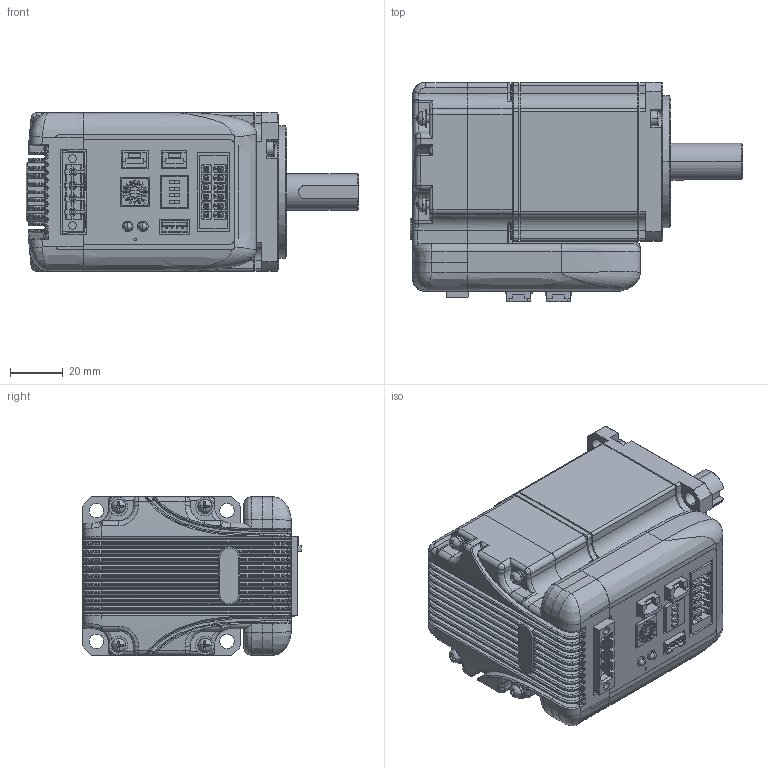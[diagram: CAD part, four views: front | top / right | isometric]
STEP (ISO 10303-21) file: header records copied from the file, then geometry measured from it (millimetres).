
FILE_DESCRIPTION((''),'2;1');
FILE_NAME('ISV2-6020_ASM','2021-07-28T15:42:01',('chensf'),(''),'CREO PARAMETRIC BY PTC INC, 2019010','CREO PARAMETRIC BY PTC INC, 2019010','');
FILE_SCHEMA(('CONFIG_CONTROL_DESIGN','GEOMETRIC_VALIDATION_PROPERTIES_MIM'));
Products named in the file (39): MANIFOLD_SOLID_BREP_169; 60_200W_8_ASM_ASM_ASM_ASM; PRT0004_7_40; PRT0005_3_11; PRT0004_36; HEADER_2_0_4X_3; XB_3; PB_4P_5; B04B-ZESK-1D_2; PHOENIX______2__6_5; CONNECTOR_5MMCLOSED4PIN_MALE_1; PCB_ASM_12_ASM_ASM_ASM_ASM; PRT0003_46; M3X8_GB818_9_1; D3_GB9074_26_11_1; D3_GB9074_24_14_1; M3X8_GB9074_4_ASM_1_ASM_ASM_ASM_ASM; ISV2HG_202011123_4; ASM0003_ASM_60_ASM_ASM_ASM_ASM; PRT0002; ASM0001_ASM_ASM_ASM; ISV2_6020V48C_B_ALL_ASM_ASM; CROSS_RECESSED_CTSK_WOOD_S-44_1; ISV2-1_-1-SOLI20001; CROSS_RECESSED_CTSK_WOOD_S-47_1; _1-SOLID1_10001; ISV2-1_-1-SOLI20002; HEXAGON_SOCKET_HEAD_CAP_S-153_1; CROSS_RECESSED_CTSK_WOOD_-156_1; CROSS_RECESSED_CTSK_WOOD_-156_2; 26-1-SOLID1_100; HEXAGON_SOCKET_HEAD_CAP_S-264_1; _1-SOLID1_10002; HEXAGON_SOCKET_HEAD_CAP_S-267_1; HEXAGON_SOCKET_HEAD_CAP_S-268_1; _1-SOLID1_10003; ISV2-6020V24C_1_2_ASM; ASM0001_ASM; ISV2-6020_ASM
Assembly tree (42 placements, depth 6):
  ISV2-6020_ASM
    ISV2_6020V48C_B_ALL_ASM_ASM
      ASM0001_ASM_ASM_ASM
        ASM0003_ASM_60_ASM_ASM_ASM_ASM
          60_200W_8_ASM_ASM_ASM_ASM
            MANIFOLD_SOLID_BREP_169
          PCB_ASM_12_ASM_ASM_ASM_ASM
            PRT0004_7_40
            PRT0005_3_11
            PRT0004_36
            HEADER_2_0_4X_3
            XB_3
            PB_4P_5
            B04B-ZESK-1D_2  x2
            PHOENIX______2__6_5
            CONNECTOR_5MMCLOSED4PIN_MALE_1
          PRT0003_46
          M3X8_GB9074_4_ASM_1_ASM_ASM_ASM_ASM  x4
            M3X8_GB818_9_1
            D3_GB9074_26_11_1
            D3_GB9074_24_14_1
          ISV2HG_202011123_4
        PRT0002
    ASM0001_ASM
      ISV2-6020V24C_1_2_ASM
        CROSS_RECESSED_CTSK_WOOD_S-44_1
        ISV2-1_-1-SOLI20001
        CROSS_RECESSED_CTSK_WOOD_S-47_1
        _1-SOLID1_10001
        ISV2-1_-1-SOLI20002
        HEXAGON_SOCKET_HEAD_CAP_S-153_1
        CROSS_RECESSED_CTSK_WOOD_-156_1
        CROSS_RECESSED_CTSK_WOOD_-156_2
        26-1-SOLID1_100
        HEXAGON_SOCKET_HEAD_CAP_S-264_1
        _1-SOLID1_10002
        HEXAGON_SOCKET_HEAD_CAP_S-267_1
        HEXAGON_SOCKET_HEAD_CAP_S-268_1
        _1-SOLID1_10003
Bounding box: 125.7 x 82.9 x 60 mm (x, y, z)
Volume: 318276.1 mm3; surface area: 154875.9 mm2
Topology: 40 solids, 41 shells, 3881 faces, 10153 edges, 6397 vertices
Faces by surface type: plane 2123, cylinder 924, cone 330, bspline 232, extrusion 162, torus 84, sphere 20, revolution 6
Entity records: 143411 total; most frequent: CARTESIAN_POINT 43565, ORIENTED_EDGE 19094, DIRECTION 17251, EDGE_CURVE 9547, VECTOR 6315, LINE 6153, VERTEX_POINT 6075, AXIS2_PLACEMENT_3D 5465
